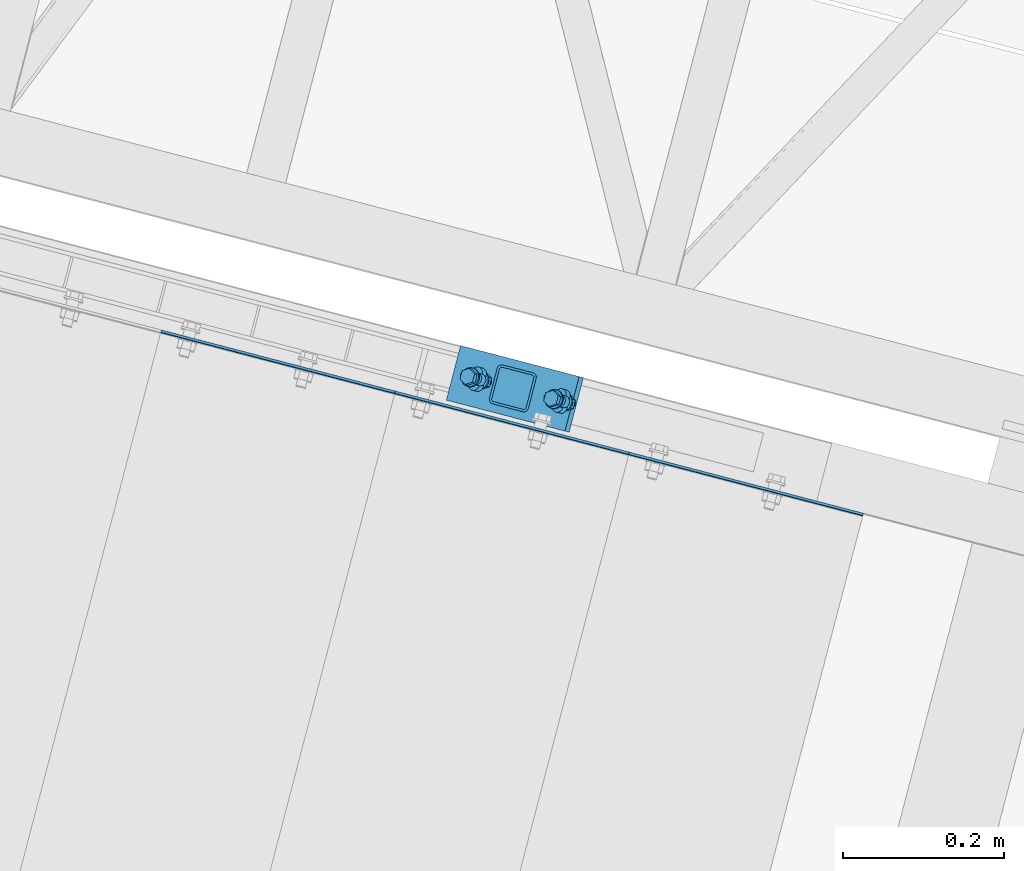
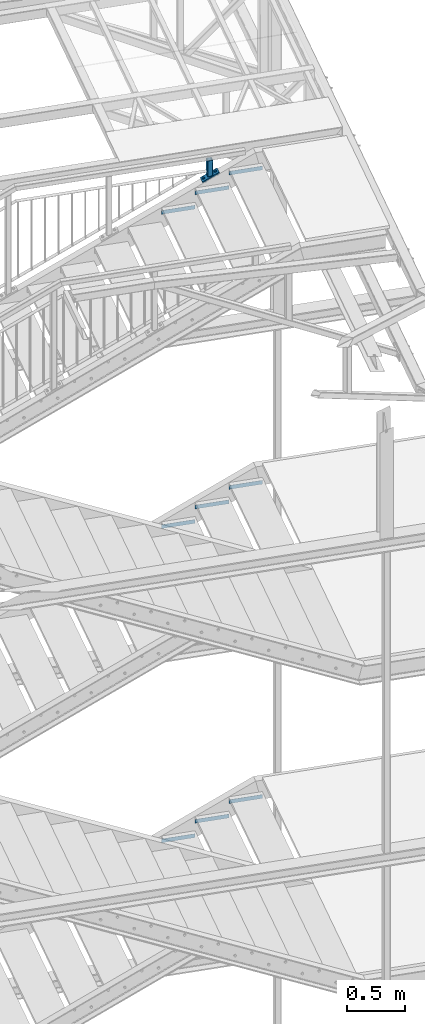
# One storey, part 80 of 169: 11 discrete accessories, 1 mechanical fastener, 10 elements without a shape of their own.
"""IFC2X3 building model written with IfcOpenShell, lengths in millimetres."""

import ifcopenshell
import ifcopenshell.guid

model = None  # the IFC model being written
_history = None  # IfcOwnerHistory: only IFC2X3 demands one
_inside = {}  # id of a spatial element -> (the spatial element, [elements in it])
_under = {}  # id of a project, library or spatial element -> (it, [spatial elements below it])
_declared = {}  # id of a project -> (the project, [libraries it declares])
_typed = {}  # id of a type object -> (the type object, [elements of that type])
_made_of = {}  # id of a material, layer set ... -> (it, [elements and type objects made of it])


def new_model(schema):
    """Start an empty IFC model of exactly this schema.

    Asked for "IFC4X3", IfcOpenShell would pick the latest addendum, in which some entities
    have other attributes; the version numbers below select the first issue.
    IFC2X3 requires an IfcOwnerHistory on every rooted entity: one is made here for all.
    """
    global model, _history
    if schema == "IFC4X3":
        model = ifcopenshell.file(schema_version=(4, 3, 0, 0))
    else:
        model = ifcopenshell.file(schema=schema)
    _inside.clear()
    _under.clear()
    _declared.clear()
    _typed.clear()
    _made_of.clear()
    _history = None
    if model.schema == "IFC2X3":
        org = make("IfcOrganization", Name="unknown")
        user = make(
            "IfcPersonAndOrganization",
            ThePerson=make("IfcPerson", FamilyName="unknown"),
            TheOrganization=org,
        )
        app = make(
            "IfcApplication",
            ApplicationDeveloper=org,
            Version="unknown",
            ApplicationFullName="unknown",
            ApplicationIdentifier="unknown",
        )
        _history = make(
            "IfcOwnerHistory",
            OwningUser=user,
            OwningApplication=app,
            ChangeAction="ADDED",
            CreationDate=0,
        )
    return model


def make(cls, **values):
    """One entity of the class cls with the attributes given. An attribute that is None is left unset."""
    return model.create_entity(
        cls, **{name: value for name, value in values.items() if value is not None}
    )


def rooted(cls, **values):
    """An entity with a GlobalId (a new one), such as an element, a storey or a relation."""
    return make(cls, GlobalId=ifcopenshell.guid.new(), OwnerHistory=_history, **values)


def si_unit(unit_type, name, prefix=None):
    """IfcSIUnit, for example si_unit("LENGTHUNIT", "METRE", prefix="MILLI")."""
    return make("IfcSIUnit", UnitType=unit_type, Prefix=prefix, Name=name)


def assignment(units):
    """IfcUnitAssignment: the units of a project."""
    return None if units is None else make("IfcUnitAssignment", Units=units)


def point(xyz):
    """IfcCartesianPoint."""
    return None if xyz is None else make("IfcCartesianPoint", Coordinates=xyz)


def direction(xyz):
    """IfcDirection."""
    return None if xyz is None else make("IfcDirection", DirectionRatios=xyz)


def frame(location, z_axis=None, x_axis=None):
    """IfcAxis2Placement3D, a coordinate frame: its origin and axes. An axis left out is left unset."""
    return make(
        "IfcAxis2Placement3D",
        Location=point(location),
        Axis=direction(z_axis),
        RefDirection=direction(x_axis),
    )


def frame_2d(location, x_axis=None):
    """IfcAxis2Placement2D, a coordinate frame in the plane: its origin and x axis."""
    return make(
        "IfcAxis2Placement2D", Location=point(location), RefDirection=direction(x_axis)
    )


def origin_with_axes():
    """The frame at (0, 0, 0) with the z axis (0, 0, 1) and the x axis (1, 0, 0) written out."""
    return frame((0.0, 0.0, 0.0), z_axis=(0.0, 0.0, 1.0), x_axis=(1.0, 0.0, 0.0))


def origin_2d_with_axis():
    """The frame at (0, 0) in the plane with the x axis (1, 0) written out."""
    return frame_2d((0.0, 0.0), x_axis=(1.0, 0.0))


def place(relative_to, where):
    """IfcLocalPlacement: puts the frame where relative to a parent placement (None: the world)."""
    return make(
        "IfcLocalPlacement", PlacementRelTo=relative_to, RelativePlacement=where
    )


def context(
    kind, dimensions, precision=None, world=None, true_north=None, identifier=None
):
    """IfcGeometricRepresentationContext, for example the 3D "Model" context."""
    return make(
        "IfcGeometricRepresentationContext",
        ContextIdentifier=identifier,
        ContextType=kind,
        CoordinateSpaceDimension=dimensions,
        Precision=precision,
        WorldCoordinateSystem=world,
        TrueNorth=true_north,
    )


def subcontext(parent, identifier, kind, view, scale=None):
    """IfcGeometricRepresentationSubContext, for example "Body" below "Model"."""
    return make(
        "IfcGeometricRepresentationSubContext",
        ContextIdentifier=identifier,
        ContextType=kind,
        ParentContext=parent,
        TargetScale=scale,
        TargetView=view,
    )


def project(units=None, contexts=None):
    """IfcProject with its units and contexts."""
    return rooted(
        "IfcProject",
        Name="project",
        RepresentationContexts=contexts,
        UnitsInContext=assignment(units),
    )


def spatial(cls, under=None, at=None, **own):
    """A site, building, storey or space (cls), placed at a placement, below another one or the project."""
    s = rooted(cls, ObjectPlacement=at, **own)
    if under is not None:
        _under.setdefault(under.id(), (under, []))[1].append(s)
    return s


def polyline(points):
    """IfcPolyline through the points."""
    return make("IfcPolyline", Points=[point(p) for p in points])


def circle_curve(where, radius):
    """IfcCircle in the frame where."""
    return make("IfcCircle", Position=where, Radius=radius)


def parameter(value):
    """IfcParameterValue: where a trimmed curve begins or ends, as a parameter of its basis curve."""
    return model.create_entity("IfcParameterValue", value)


def trimmed(basis, trim1, trim2, sense, master):
    """IfcTrimmedCurve: the piece of a basis curve between two trims."""
    return make(
        "IfcTrimmedCurve",
        BasisCurve=basis,
        Trim1=trim1,
        Trim2=trim2,
        SenseAgreement=sense,
        MasterRepresentation=master,
    )


def segment(curve, same_sense, transition):
    """IfcCompositeCurveSegment."""
    return make(
        "IfcCompositeCurveSegment",
        Transition=transition,
        SameSense=same_sense,
        ParentCurve=curve,
    )


def composite_curve(segments, self_intersect=None):
    """IfcCompositeCurve: segments joined end to end."""
    return make("IfcCompositeCurve", Segments=segments, SelfIntersect=self_intersect)


def profile(cls, at=None, kind="AREA", **sizes):
    """A parametric profile (cls). Its sizes go by their IFC names, for example OverallWidth=200.0."""
    return make(cls, ProfileType=kind, Position=at, **sizes)


def rectangle(**sizes):
    """IfcRectangleProfileDef."""
    return profile("IfcRectangleProfileDef", **sizes)


def hollow_rectangle(**sizes):
    """IfcRectangleHollowProfileDef."""
    return profile("IfcRectangleHollowProfileDef", **sizes)


def circle(**sizes):
    """IfcCircleProfileDef."""
    return profile("IfcCircleProfileDef", **sizes)


def outline(outer, holes=None, kind="AREA"):
    """IfcArbitraryClosedProfileDef: a profile drawn as a closed curve; with holes, ...WithVoids."""
    if holes is None:
        return make("IfcArbitraryClosedProfileDef", ProfileType=kind, OuterCurve=outer)
    return make(
        "IfcArbitraryProfileDefWithVoids",
        ProfileType=kind,
        OuterCurve=outer,
        InnerCurves=holes,
    )


def extrude(swept, where, along, depth):
    """IfcExtrudedAreaSolid: the profile swept, set in the frame where, extruded along a direction by depth."""
    return make(
        "IfcExtrudedAreaSolid",
        SweptArea=swept,
        Position=where,
        ExtrudedDirection=direction(along),
        Depth=depth,
    )


def clip(a, b, op="DIFFERENCE"):
    """IfcBooleanClippingResult: the solid a cut by the half space b."""
    return make(
        "IfcBooleanClippingResult", Operator=op, FirstOperand=a, SecondOperand=b
    )


def halfspace(plane, agree):
    """IfcHalfSpaceSolid: all space on one side of the plane z = 0 of the frame plane."""
    return make(
        "IfcHalfSpaceSolid",
        BaseSurface=make("IfcPlane", Position=plane),
        AgreementFlag=agree,
    )


def shape(context_of_items, identifier, shape_type, items):
    """IfcShapeRepresentation: the items that make up one representation, for example the "Body"."""
    return make(
        "IfcShapeRepresentation",
        ContextOfItems=context_of_items,
        RepresentationIdentifier=identifier,
        RepresentationType=shape_type,
        Items=items,
    )


def source(mapping_origin, context_of_items, identifier, shape_type, items):
    """IfcRepresentationMap: a shape defined once, which mapped items show again and again."""
    return make(
        "IfcRepresentationMap",
        MappingOrigin=mapping_origin,
        MappedRepresentation=shape(context_of_items, identifier, shape_type, items),
    )


def transform(
    local_origin,
    x_axis=None,
    y_axis=None,
    z_axis=None,
    scale=None,
    scale2=None,
    scale3=None,
    uniform=True,
):
    """IfcCartesianTransformationOperator3D, or its non-uniform kind. x_axis, y_axis, z_axis: its Axis1, 2, 3."""
    if uniform:
        return make(
            "IfcCartesianTransformationOperator3D",
            Axis1=direction(x_axis),
            Axis2=direction(y_axis),
            LocalOrigin=point(local_origin),
            Scale=scale,
            Axis3=direction(z_axis),
        )
    return make(
        "IfcCartesianTransformationOperator3DnonUniform",
        Axis1=direction(x_axis),
        Axis2=direction(y_axis),
        LocalOrigin=point(local_origin),
        Scale=scale,
        Axis3=direction(z_axis),
        Scale2=scale2,
        Scale3=scale3,
    )


def mapped(mapping_source, mapping_target):
    """IfcMappedItem: shows the shape of a source again, moved by a transform."""
    return make(
        "IfcMappedItem", MappingSource=mapping_source, MappingTarget=mapping_target
    )


def material(Name=None, Category=None):
    """IfcMaterial."""
    return make("IfcMaterial", Name=Name, Category=Category)


def made_of(thing, what):
    """Note that an element or type object is made of a material, layer set ...; save() writes the relation."""
    if what is not None:
        _made_of.setdefault(what.id(), (what, []))[1].append(thing)
    return thing


def type_object(cls, material=None, **own):
    """A type object (cls), such as IfcWallType, which elements share."""
    return made_of(rooted(cls, **own), material)


def element(
    cls,
    number,
    at=None,
    inside=None,
    cuts=None,
    type_object=None,
    material=None,
    context=None,
    identifier="Body",
    shape_type=None,
    held_by="IfcProductDefinitionShape",
    body=None,
    shapes=None,
    **own,
):
    """One element of the class cls, such as IfcWall. Its Tag is "e" and its number.

    at: its placement. inside: the storey or other place that contains it. cuts: it is an
    opening in that element (IfcRelVoidsElement). A single representation is given by context,
    identifier, shape_type and body (its items); several are given by shapes. held_by: the class
    of the entity that holds the representations. save() writes the other relations.
    """
    e = rooted(cls, Tag="e%d" % number, ObjectPlacement=at, **own)
    if body is not None:
        shapes = [shape(context, identifier, shape_type, body)]
    if shapes is not None:
        e.Representation = make(held_by, Representations=shapes)
    if inside is not None:
        _inside.setdefault(inside.id(), (inside, []))[1].append(e)
    if cuts is not None:
        rooted(
            "IfcRelVoidsElement", RelatingBuildingElement=cuts, RelatedOpeningElement=e
        )
    if type_object is not None:
        _typed.setdefault(type_object.id(), (type_object, []))[1].append(e)
    return made_of(e, material)


def aggregate(whole, parts):
    """IfcRelAggregates: a whole, such as a stair, and the parts it consists of."""
    return rooted("IfcRelAggregates", RelatingObject=whole, RelatedObjects=parts)


def save(model, path):
    """Write the relations noted so far, then the file.

    IfcRelAggregates (storeys below a building ...), IfcRelContainedInSpatialStructure (elements
    in a storey), IfcRelDefinesByType, IfcRelAssociatesMaterial and IfcRelDeclares: one each for
    every whole, place, type object, material and project.
    """
    for whole, parts in _under.values():
        aggregate(whole, parts)
    for where, things in _inside.values():
        rooted(
            "IfcRelContainedInSpatialStructure",
            RelatedElements=things,
            RelatingStructure=where,
        )
    for kind, things in _typed.values():
        rooted("IfcRelDefinesByType", RelatedObjects=things, RelatingType=kind)
    for what, things in _made_of.values():
        rooted("IfcRelAssociatesMaterial", RelatedObjects=things, RelatingMaterial=what)
    for by, libraries in _declared.values():
        rooted("IfcRelDeclares", RelatingContext=by, RelatedDefinitions=libraries)
    model.write(path)


model = new_model("IFC2X3")

# Units and contexts
model_context = context("Model", 3, precision=1e-05, world=origin_with_axes())
body_context = subcontext(model_context, "Body", "Model", "MODEL_VIEW")
ifc_project = project(units=[si_unit("LENGTHUNIT", "METRE", prefix="MILLI"), si_unit("AREAUNIT", "SQUARE_METRE"), si_unit("VOLUMEUNIT", "CUBIC_METRE"), si_unit("MASSUNIT", "GRAM", prefix="KILO"), si_unit("TIMEUNIT", "SECOND"), si_unit("PLANEANGLEUNIT", "RADIAN"), si_unit("SOLIDANGLEUNIT", "STERADIAN"), si_unit("THERMODYNAMICTEMPERATUREUNIT", "DEGREE_CELSIUS"), si_unit("LUMINOUSINTENSITYUNIT", "LUMEN")], contexts=[model_context])

# Site, building, storey
site_placement = place(None, origin_with_axes())
site = spatial("IfcSite", under=ifc_project, at=site_placement, Name="Undefined", CompositionType="ELEMENT")
building_placement = place(site_placement, origin_with_axes())
building = spatial("IfcBuilding", under=site, at=building_placement, Name="Undefined", CompositionType="ELEMENT")
storey_placement = place(building_placement, origin_with_axes())
storey = spatial("IfcBuildingStorey", under=building, at=storey_placement, Name="Undefined", CompositionType="ELEMENT", Elevation=0.0)

# Assembly, discrete accessories
assembly_1_placement = place(storey_placement, origin_with_axes())
assembly_1 = element("IfcElementAssembly", 1, at=assembly_1_placement, inside=storey, Name="Steel Assembly", AssemblyPlace="NOTDEFINED", PredefinedType="RIGID_FRAME")
ifc_material_1 = material(Name="STEEL/S235")
discrete_accessory_type_1 = type_object("IfcDiscreteAccessoryType", Name="BLACHA")
discrete_accessory_1_placement = place(assembly_1_placement, frame((-24814.012631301, 8051.38391038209, 13809.287769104), z_axis=(-0.432715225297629, 0.11294923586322, 0.894427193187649), x_axis=(0.252628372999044, 0.967563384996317, 3.42100000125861e-05)))
discrete_accessory_1 = element("IfcDiscreteAccessory", 2, at=discrete_accessory_1_placement, type_object=discrete_accessory_type_1, material=ifc_material_1, Name="BLACHA", ObjectType="BL12*170", context=body_context, shape_type="SweptSolid", body=[
    extrude(outline(polyline([(5.82076609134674e-11, 84.99999999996), (70.0000000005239, 84.9999999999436), (70.0000000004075, -84.9999999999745), (-5.82076609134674e-11, -84.99999999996), (5.82076609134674e-11, 84.99999999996)])), frame((-1.81898942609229e-12, -1.81898940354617e-12, -5.99999999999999), z_axis=(0.0, 0.0, 1.0), x_axis=(1.0, 0.0, 0.0)), (0.0, 0.0, 1.0), 12.0),
])
discrete_accessory_type_2 = type_object("IfcDiscreteAccessoryType", Name="STANCHION")
discrete_accessory_2_placement = place(assembly_1_placement, frame((-24807.7674364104, 8085.92438318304, 13799.9945135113), z_axis=(3.4552000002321e-05, 0.000132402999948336, 0.999999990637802), x_axis=(0.252628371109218, 0.967563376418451, -0.000136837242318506)))
discrete_accessory_2 = element("IfcDiscreteAccessory", 3, at=discrete_accessory_2_placement, type_object=discrete_accessory_type_2, material=ifc_material_1, Name="STANCHION", ObjectType="SHS50*3", context=body_context, shape_type="Clipping", body=[
    clip(clip(extrude(hollow_rectangle(XDim=50.0, YDim=50.0, WallThickness=3.0, InnerFilletRadius=3.0, OuterFilletRadius=6.0, at=origin_2d_with_axis()), frame((5.96860776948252e-13, 3.63798078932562e-12, 179.999999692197), z_axis=(-2.54700353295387e-10, 0.0, -1.0), x_axis=(0.0, 1.0, 0.0)), (0.0, 0.0, 1.0), 165.34), halfspace(frame((999.999999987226, -1.93394953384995e-08, 179.999999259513), z_axis=(-2.54700353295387e-10, 0.0, -1.0), x_axis=(0.0, 1.0, 0.0)), True)), halfspace(frame((999.999067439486, 2.68328154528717, 13.4904219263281), z_axis=(-0.00015298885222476, 0.447213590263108, 0.894427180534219), x_axis=(-7.64941891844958e-05, -0.894427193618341, 0.447213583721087)), True)),
])

# Assembly, discrete accessory
assembly_2_placement = place(storey_placement, origin_with_axes())
assembly_2 = element("IfcElementAssembly", 4, at=assembly_2_placement, inside=storey, Name="Steel Assembly", AssemblyPlace="NOTDEFINED", PredefinedType="RIGID_FRAME")
ifc_material_2 = material(Name="STEEL/S235JR")
discrete_accessory_type_3 = type_object("IfcDiscreteAccessoryType", Name="ANGLE")
discrete_accessory_3_placement = place(assembly_2_placement, frame((-24663.4848182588, 8005.37262688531, 13830.0957858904), z_axis=(-0.252562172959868, -0.967580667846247, 0.0), x_axis=(0.967580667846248, -0.252562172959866, 0.0)))
discrete_accessory_3 = element("IfcDiscreteAccessory", 5, at=discrete_accessory_3_placement, type_object=discrete_accessory_type_3, material=ifc_material_2, Name="ANGLE", ObjectType="3*40", context=body_context, shape_type="SweptSolid", body=[
    extrude(rectangle(XDim=40.0, YDim=3.0, at=origin_2d_with_axis()), frame((300.000000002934, 1.81898940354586e-12, -1.81898940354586e-12), z_axis=(-1.0, -3.46944695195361e-18, -1.38777878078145e-17), x_axis=(1.73472347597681e-18, -1.0, 0.0)), (0.0, 0.0, 1.0), 300.0),
])
aggregate(assembly_2, [discrete_accessory_3])

assembly_3_placement = place(storey_placement, origin_with_axes())
assembly_3 = element("IfcElementAssembly", 6, at=assembly_3_placement, inside=storey, Name="Steel Assembly", AssemblyPlace="NOTDEFINED", PredefinedType="RIGID_FRAME")
discrete_accessory_4_placement = place(assembly_3_placement, frame((-24953.759022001, 8081.14127969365, 13680.0957858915), z_axis=(-0.252562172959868, -0.967580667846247, 0.0), x_axis=(0.967580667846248, -0.252562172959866, 0.0)))
discrete_accessory_4 = element("IfcDiscreteAccessory", 7, at=discrete_accessory_4_placement, type_object=discrete_accessory_type_3, material=ifc_material_2, Name="ANGLE", ObjectType="3*40", context=body_context, shape_type="SweptSolid", body=[
    extrude(rectangle(XDim=40.0, YDim=3.0, at=origin_2d_with_axis()), frame((300.000000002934, 1.81898940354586e-12, -1.81898940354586e-12), z_axis=(-1.0, -3.46944695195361e-18, -1.38777878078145e-17), x_axis=(1.73472347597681e-18, -1.0, 0.0)), (0.0, 0.0, 1.0), 300.0),
])
aggregate(assembly_3, [discrete_accessory_4])

assembly_4_placement = place(storey_placement, origin_with_axes())
assembly_4 = element("IfcElementAssembly", 8, at=assembly_4_placement, inside=storey, Name="Steel Assembly", AssemblyPlace="NOTDEFINED", PredefinedType="RIGID_FRAME")
discrete_accessory_5_placement = place(assembly_4_placement, frame((-25244.0332257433, 8156.90993250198, 13530.0957858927), z_axis=(-0.252562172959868, -0.967580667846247, 0.0), x_axis=(0.967580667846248, -0.252562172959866, 0.0)))
discrete_accessory_5 = element("IfcDiscreteAccessory", 9, at=discrete_accessory_5_placement, type_object=discrete_accessory_type_3, material=ifc_material_2, Name="ANGLE", ObjectType="3*40", context=body_context, shape_type="SweptSolid", body=[
    extrude(rectangle(XDim=40.0, YDim=3.0, at=origin_2d_with_axis()), frame((300.000000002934, 1.81898940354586e-12, -1.81898940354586e-12), z_axis=(-1.0, -3.46944695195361e-18, -1.38777878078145e-17), x_axis=(1.73472347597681e-18, -1.0, 0.0)), (0.0, 0.0, 1.0), 300.0),
])
aggregate(assembly_4, [discrete_accessory_5])

assembly_5_placement = place(storey_placement, origin_with_axes())
assembly_5 = element("IfcElementAssembly", 10, at=assembly_5_placement, inside=storey, Name="Steel Assembly", AssemblyPlace="NOTDEFINED", PredefinedType="RIGID_FRAME")
discrete_accessory_6_placement = place(assembly_5_placement, frame((-24663.5988956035, 8004.9357119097, 10530.0958168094), z_axis=(-0.252562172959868, -0.967580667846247, 0.0), x_axis=(0.967580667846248, -0.252562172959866, 0.0)))
discrete_accessory_6 = element("IfcDiscreteAccessory", 11, at=discrete_accessory_6_placement, type_object=discrete_accessory_type_3, material=ifc_material_2, Name="ANGLE", ObjectType="3*40", context=body_context, shape_type="SweptSolid", body=[
    extrude(rectangle(XDim=40.0, YDim=3.0, at=origin_2d_with_axis()), frame((300.000000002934, 1.81898940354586e-12, -1.81898940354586e-12), z_axis=(-1.0, -3.46944695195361e-18, -1.38777878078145e-17), x_axis=(1.73472347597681e-18, -1.0, 0.0)), (0.0, 0.0, 1.0), 300.0),
])
aggregate(assembly_5, [discrete_accessory_6])

assembly_6_placement = place(storey_placement, origin_with_axes())
assembly_6 = element("IfcElementAssembly", 12, at=assembly_6_placement, inside=storey, Name="Steel Assembly", AssemblyPlace="NOTDEFINED", PredefinedType="RIGID_FRAME")
discrete_accessory_7_placement = place(assembly_6_placement, frame((-24953.8730993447, 8080.70436472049, 10380.0958168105), z_axis=(-0.252562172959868, -0.967580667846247, 0.0), x_axis=(0.967580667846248, -0.252562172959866, 0.0)))
discrete_accessory_7 = element("IfcDiscreteAccessory", 13, at=discrete_accessory_7_placement, type_object=discrete_accessory_type_3, material=ifc_material_2, Name="ANGLE", ObjectType="3*40", context=body_context, shape_type="SweptSolid", body=[
    extrude(rectangle(XDim=40.0, YDim=3.0, at=origin_2d_with_axis()), frame((300.000000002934, 1.81898940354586e-12, -1.81898940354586e-12), z_axis=(-1.0, -3.46944695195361e-18, -1.38777878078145e-17), x_axis=(1.73472347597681e-18, -1.0, 0.0)), (0.0, 0.0, 1.0), 300.0),
])
aggregate(assembly_6, [discrete_accessory_7])

assembly_7_placement = place(storey_placement, origin_with_axes())
assembly_7 = element("IfcElementAssembly", 14, at=assembly_7_placement, inside=storey, Name="Steel Assembly", AssemblyPlace="NOTDEFINED", PredefinedType="RIGID_FRAME")
discrete_accessory_8_placement = place(assembly_7_placement, frame((-25244.1473030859, 8156.47301753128, 10230.0958168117), z_axis=(-0.252562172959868, -0.967580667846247, 0.0), x_axis=(0.967580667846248, -0.252562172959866, 0.0)))
discrete_accessory_8 = element("IfcDiscreteAccessory", 15, at=discrete_accessory_8_placement, type_object=discrete_accessory_type_3, material=ifc_material_2, Name="ANGLE", ObjectType="3*40", context=body_context, shape_type="SweptSolid", body=[
    extrude(rectangle(XDim=40.0, YDim=3.0, at=origin_2d_with_axis()), frame((300.000000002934, 1.81898940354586e-12, -1.81898940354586e-12), z_axis=(-1.0, -3.46944695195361e-18, -1.38777878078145e-17), x_axis=(1.73472347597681e-18, -1.0, 0.0)), (0.0, 0.0, 1.0), 300.0),
])
aggregate(assembly_7, [discrete_accessory_8])

assembly_8_placement = place(storey_placement, origin_with_axes())
assembly_8 = element("IfcElementAssembly", 16, at=assembly_8_placement, inside=storey, Name="Steel Assembly", AssemblyPlace="NOTDEFINED", PredefinedType="RIGID_FRAME")
discrete_accessory_9_placement = place(assembly_8_placement, frame((-24663.712973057, 8004.49879695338, 7230.0958476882), z_axis=(-0.252562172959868, -0.967580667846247, 0.0), x_axis=(0.967580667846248, -0.252562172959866, 0.0)))
discrete_accessory_9 = element("IfcDiscreteAccessory", 17, at=discrete_accessory_9_placement, type_object=discrete_accessory_type_3, material=ifc_material_2, Name="ANGLE", ObjectType="3*40", context=body_context, shape_type="SweptSolid", body=[
    extrude(rectangle(XDim=40.0, YDim=3.0, at=origin_2d_with_axis()), frame((300.000000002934, 1.81898940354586e-12, -1.81898940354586e-12), z_axis=(-1.0, -3.46944695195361e-18, -1.38777878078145e-17), x_axis=(1.73472347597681e-18, -1.0, 0.0)), (0.0, 0.0, 1.0), 300.0),
])
aggregate(assembly_8, [discrete_accessory_9])

assembly_9_placement = place(storey_placement, origin_with_axes())
assembly_9 = element("IfcElementAssembly", 18, at=assembly_9_placement, inside=storey, Name="Steel Assembly", AssemblyPlace="NOTDEFINED", PredefinedType="RIGID_FRAME")
discrete_accessory_10_placement = place(assembly_9_placement, frame((-24953.9871767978, 8080.26744976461, 7080.09584768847), z_axis=(-0.252562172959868, -0.967580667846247, 0.0), x_axis=(0.967580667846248, -0.252562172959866, 0.0)))
discrete_accessory_10 = element("IfcDiscreteAccessory", 19, at=discrete_accessory_10_placement, type_object=discrete_accessory_type_3, material=ifc_material_2, Name="ANGLE", ObjectType="3*40", context=body_context, shape_type="SweptSolid", body=[
    extrude(rectangle(XDim=40.0, YDim=3.0, at=origin_2d_with_axis()), frame((300.000000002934, 1.81898940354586e-12, -1.81898940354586e-12), z_axis=(-1.0, -3.46944695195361e-18, -1.38777878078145e-17), x_axis=(1.73472347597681e-18, -1.0, 0.0)), (0.0, 0.0, 1.0), 300.0),
])
aggregate(assembly_9, [discrete_accessory_10])

assembly_10_placement = place(storey_placement, origin_with_axes())
assembly_10 = element("IfcElementAssembly", 20, at=assembly_10_placement, inside=storey, Name="Steel Assembly", AssemblyPlace="NOTDEFINED", PredefinedType="RIGID_FRAME")
discrete_accessory_11_placement = place(assembly_10_placement, frame((-25244.2613805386, 8156.03610257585, 6930.09584768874), z_axis=(-0.252562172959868, -0.967580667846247, 0.0), x_axis=(0.967580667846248, -0.252562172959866, 0.0)))
discrete_accessory_11 = element("IfcDiscreteAccessory", 21, at=discrete_accessory_11_placement, type_object=discrete_accessory_type_3, material=ifc_material_2, Name="ANGLE", ObjectType="3*40", context=body_context, shape_type="SweptSolid", body=[
    extrude(rectangle(XDim=40.0, YDim=3.0, at=origin_2d_with_axis()), frame((300.000000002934, 1.81898940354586e-12, -1.81898940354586e-12), z_axis=(-1.0, -3.46944695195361e-18, -1.38777878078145e-17), x_axis=(1.73472347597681e-18, -1.0, 0.0)), (0.0, 0.0, 1.0), 300.0),
])
aggregate(assembly_10, [discrete_accessory_11])

# Mechanical fastener
ifc_material_3 = material(Name="Undefined")
discrete_accessory_type_4 = type_object("IfcDiscreteAccessoryType", Name="Bolt assembly")
shared_shape = source(origin_with_axes(), body_context, "Body", "SweptSolid", [
    extrude(outline(composite_curve([segment(polyline([(-7.5, 7.5), (7.5, 7.5)]), True, "CONTINUOUS"), segment(trimmed(circle_curve(frame_2d((7.5, 0.0), x_axis=(0.0, 1.0)), 7.5), [parameter(0.0)], [parameter(3.14159265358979)], False, "PARAMETER"), True, "CONTINUOUS"), segment(polyline([(7.5, -7.5), (-7.5, -7.5)]), True, "CONTINUOUS"), segment(trimmed(circle_curve(frame_2d((-7.5, 0.0), x_axis=(0.0, -1.0)), 7.5), [parameter(0.0)], [parameter(3.14159265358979)], False, "PARAMETER"), True, "DISCONTINUOUS")], self_intersect=False)), frame((0.0, 0.649999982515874, 0.0), z_axis=(0.0, 1.0, 0.0), x_axis=(1.0, 0.0, 0.0)), (0.0, 0.0, 1.0), 11.6),
    extrude(outline(composite_curve([segment(polyline([(7.5, 7.5), (7.5, -7.5)]), True, "CONTINUOUS"), segment(trimmed(circle_curve(frame_2d((0.0, -7.5), x_axis=(1.0, 0.0)), 7.5), [parameter(0.0)], [parameter(3.14159265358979)], False, "PARAMETER"), True, "CONTINUOUS"), segment(polyline([(-7.5, -7.5), (-7.5, 7.5)]), True, "CONTINUOUS"), segment(trimmed(circle_curve(frame_2d((0.0, 7.5), x_axis=(-1.0, 0.0)), 7.5), [parameter(0.0)], [parameter(3.14159265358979)], False, "PARAMETER"), True, "DISCONTINUOUS")], self_intersect=False)), frame((0.0, -12.1500000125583, 0.0), z_axis=(0.0, 1.0, 0.0), x_axis=(1.0, 0.0, 0.0)), (0.0, 0.0, 1.0), 12.0),
    extrude(outline(polyline([(10.39230484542, 0.0), (5.19615242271, 9.00000000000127), (-5.19615242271, 9.00000000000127), (-10.39230484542, 0.0), (-5.19615242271, -9.00000000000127), (5.19615242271, -9.00000000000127), (10.39230484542, 0.0)])), frame((0.0, -22.7500000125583, 0.0), z_axis=(0.0, 1.0, 0.0), x_axis=(1.0, 0.0, 0.0)), (0.0, 0.0, 1.0), 7.5),
    extrude(circle(Radius=6.0, at=origin_2d_with_axis()), frame((0.0, -15.2500000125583, 0.0), z_axis=(0.0, 1.0, 0.0), x_axis=(1.0, 0.0, 0.0)), (0.0, 0.0, 1.0), 50.0),
    extrude(circle(Radius=12.0, at=origin_2d_with_axis()), frame((0.0, -15.2500000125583, 0.0), z_axis=(0.0, 1.0, 0.0), x_axis=(1.0, 0.0, 0.0)), (0.0, 0.0, 1.0), 3.0),
    extrude(circle(Radius=12.0, at=origin_2d_with_axis()), frame((0.0, 12.2499999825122, 0.0), z_axis=(0.0, 1.0, 0.0), x_axis=(1.0, 0.0, 0.0)), (0.0, 0.0, 1.0), 3.0),
    extrude(outline(polyline([(10.96965511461, 0.0), (5.484827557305, 9.50000000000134), (-5.484827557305, 9.50000000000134), (-10.96965511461, 0.0), (-5.484827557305, -9.50000000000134), (5.484827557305, -9.50000000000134), (10.96965511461, 0.0)])), frame((0.0, 15.2499999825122, 0.0), z_axis=(0.0, 1.0, 0.0), x_axis=(1.0, 0.0, 0.0)), (0.0, 0.0, 1.0), 10.0),
])
mechanical_fastener_placement = place(assembly_1_placement, frame((-24796.1504586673, 8108.7317811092, 13803.6996517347), z_axis=(0.86541113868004, -0.22597248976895, 0.447213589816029), x_axis=(-0.252628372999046, -0.967563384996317, -3.42099999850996e-05)))
mechanical_fastener = element("IfcMechanicalFastener", 22, at=mechanical_fastener_placement, type_object=discrete_accessory_type_4, material=ifc_material_3, Name="Bolt assembly", NominalDiameter=12.0, NominalLength=50.0, context=body_context, shape_type="MappedRepresentation", body=[
    mapped(shared_shape, transform((24.9999999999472, 0.0, -60.0000000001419))),
    mapped(shared_shape, transform((24.9999999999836, -3.54702933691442e-11, 60.0000000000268))),
])

aggregate(assembly_1, [mechanical_fastener, discrete_accessory_1, discrete_accessory_2])

save(model, "model.ifc")
